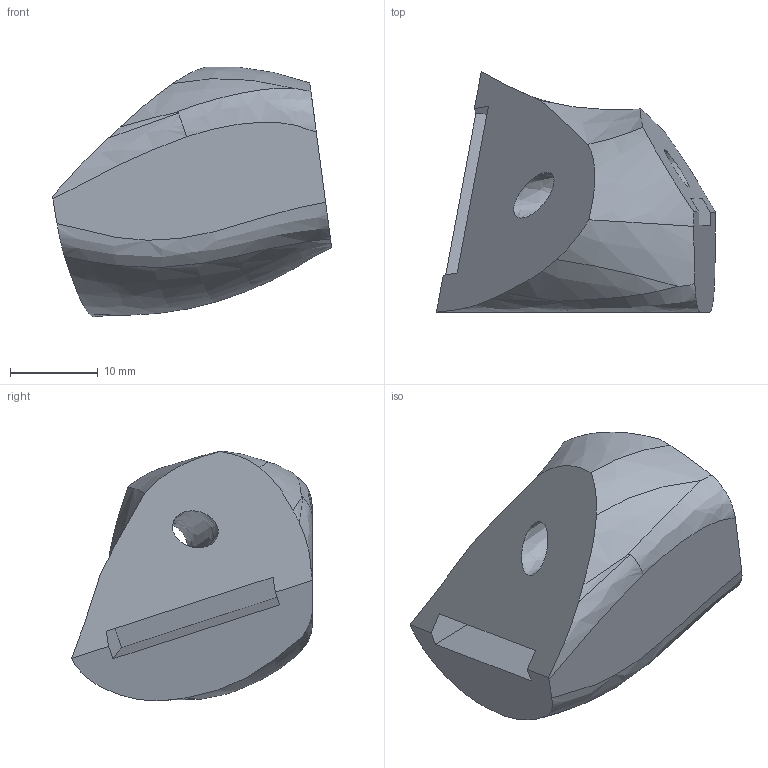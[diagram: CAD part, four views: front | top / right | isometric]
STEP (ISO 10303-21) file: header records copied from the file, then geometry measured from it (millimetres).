
FILE_DESCRIPTION(/* description */ (''),/* implementation_level */ '2;1');
FILE_NAME(/* name */ 'C:/Users/Ryan/Documents/AIO Robotics/CAD Files/ThumbPhalanx.step',/* time_stamp */ '2017-02-04T20:55:03-08:00',/* author */ (''),/* organization */ (''),/* preprocessor_version */ 'ST-DEVELOPER v16.5',/* originating_system */ 'Autodesk Translation Framework v5.2.0.2920',/* authorisation */ '');
FILE_SCHEMA (('AUTOMOTIVE_DESIGN { 1 0 10303 214 3 1 1 }'));
Length unit declared in the file: inch
Products named in the file (1): FirstJointThumb v98
Bounding box: 31.86 x 27.48 x 28.47 mm (x, y, z)
Volume: 9949.7 mm3; surface area: 3468.4 mm2
Topology: 1 solids, 1 shells, 27 faces, 78 edges, 53 vertices
Faces by surface type: plane 15, bspline 12
Entity records: 2636 total; most frequent: CARTESIAN_POINT 1992, ORIENTED_EDGE 156, DIRECTION 81, EDGE_CURVE 78, VERTEX_POINT 53, B_SPLINE_CURVE_WITH_KNOTS 36, LINE 35, VECTOR 35
